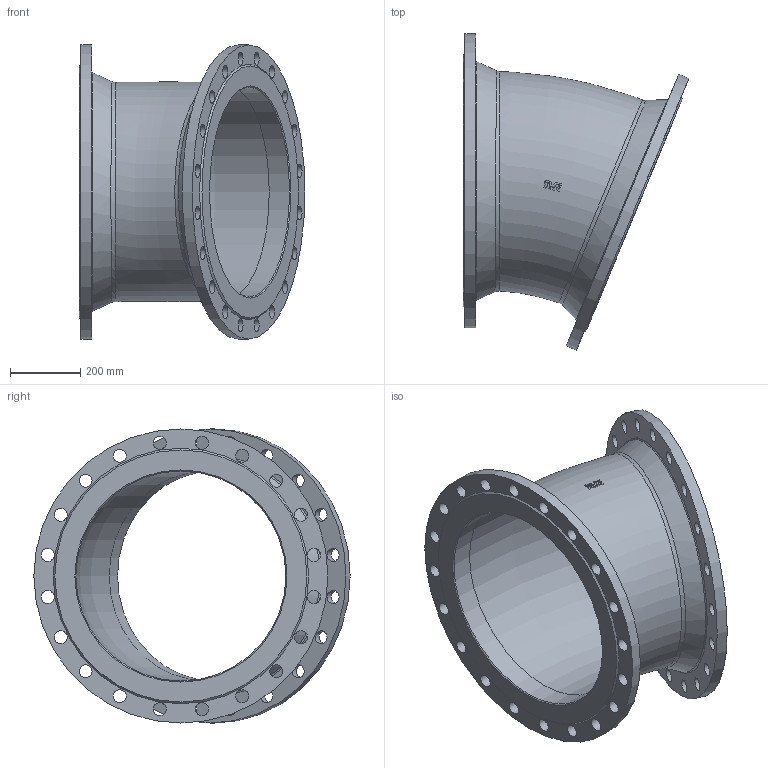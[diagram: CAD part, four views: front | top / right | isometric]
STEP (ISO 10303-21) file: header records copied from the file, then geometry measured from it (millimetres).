
FILE_DESCRIPTION (( 'STEP AP203' ), '1' );
FILE_NAME ('O_712_0210_DN600_1X_REV01.step', '2024-08-15T12:32:16', ( '' ), ( '' ), 'SwSTEP 2.0', 'SolidWorks 2022', '' );
FILE_SCHEMA (( 'CONFIG_CONTROL_DESIGN' ));
Length unit declared in the file: millimetre
Products named in the file (1): O_712_0210_DN600_1X_REV01
Bounding box: 644.77 x 903.32 x 840 mm (x, y, z)
Volume: 31406577.7 mm3; surface area: 2971385.9 mm2
Topology: 1 solids, 1 shells, 103 faces, 297 edges, 204 vertices
Faces by surface type: cylinder 46, plane 41, torus 8, cone 6, bspline 2
Full cylindrical faces by diameter (mm): 37 x40, 600 x2, 840 x2
Entity records: 5355 total; most frequent: CARTESIAN_POINT 2870, DIRECTION 437, ORIENTED_EDGE 426, EDGE_LOOP 249, EDGE_CURVE 213, AXIS2_PLACEMENT_3D 200, VERTEX_POINT 176, FACE_OUTER_BOUND 153
